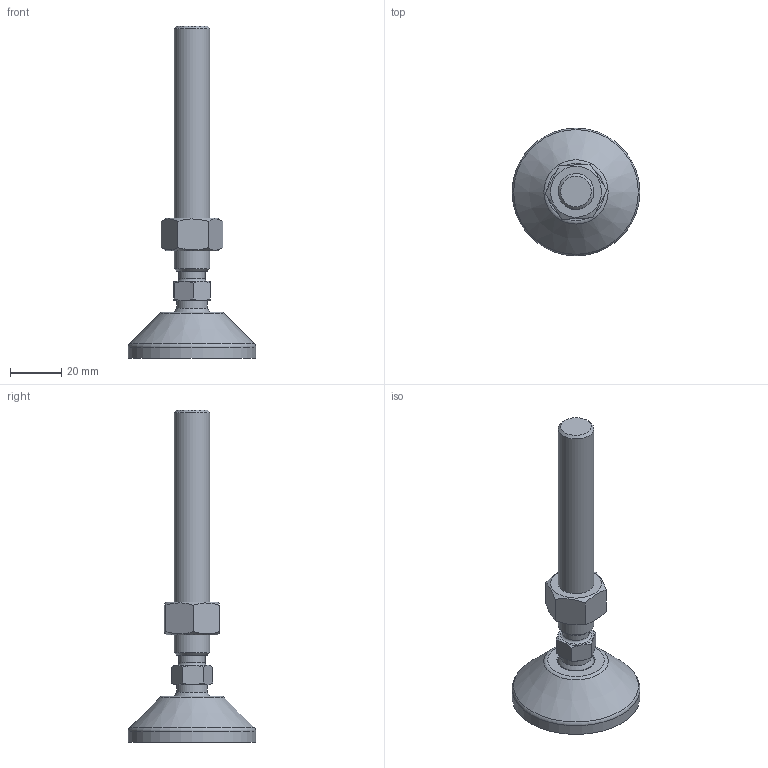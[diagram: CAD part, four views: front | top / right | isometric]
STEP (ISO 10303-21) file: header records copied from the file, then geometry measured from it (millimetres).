
FILE_DESCRIPTION(('STEP AP203'), '1');
FILE_NAME('栖闉罻', '', ('UNSPECIFIED'), ('UNSPECIFIED'), 'C3D Converter', 'C3D Toolkit', '');
FILE_SCHEMA(('CONFIG_CONTROL_DESIGN'));
Length unit declared in the file: millimetre
Products named in the file (4): A00015.1050; A00020.114100
Assembly tree (3 placements, depth 3):
  (unnamed)
    A00015.1050
    A00020.114100
      (unnamed)
Bounding box: 50 x 50 x 129.97 mm (x, y, z)
Volume: 37042 mm3; surface area: 15269.6 mm2
Topology: 3 solids, 3 shells, 189 faces, 500 edges, 330 vertices
Faces by surface type: plane 87, cylinder 50, torus 30, cone 20, sphere 2
Full cylindrical faces by diameter (mm): 4 x8, 10.2 x1, 11.835 x1, 12 x1, 14 x1, 14.3 x1, 15 x2, 15.5 x1, 39 x1, 50 x1
Entity records: 9859 total; most frequent: CARTESIAN_POINT 3591, DIRECTION 956, ORIENTED_EDGE 930, EDGE_CURVE 465, AXIS2_PLACEMENT_3D 400, VERTEX_POINT 329, EDGE_LOOP 238, CIRCLE 207
